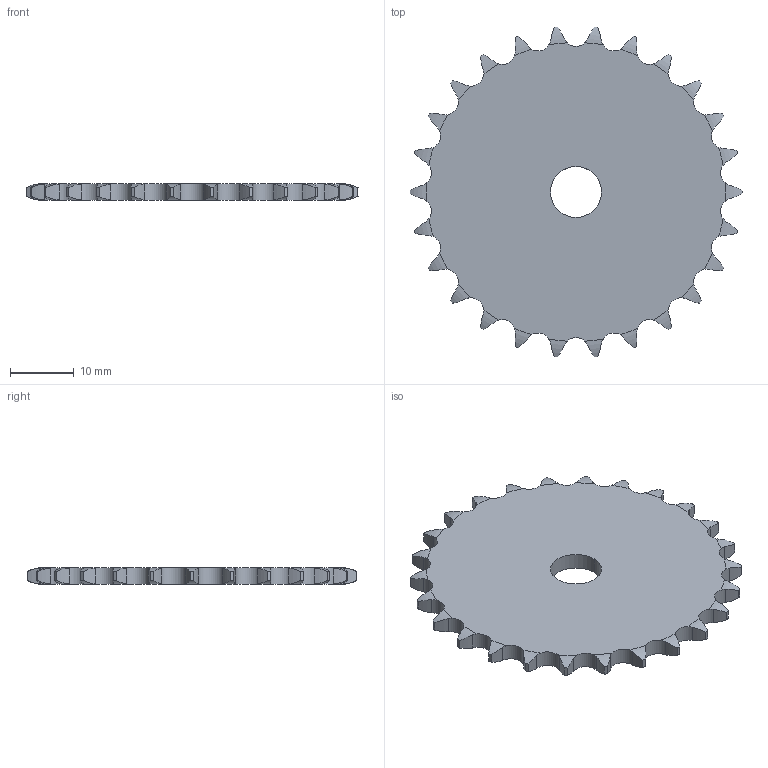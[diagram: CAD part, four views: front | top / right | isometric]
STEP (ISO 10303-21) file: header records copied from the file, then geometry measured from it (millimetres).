
FILE_DESCRIPTION((''),'2;1');
FILE_NAME('500-061-0026_PRT','2021-02-12T',('Brieden'),('Brieden'),'PRO/ENGINEER BY PARAMETRIC TECHNOLOGY CORPORATION, 2010160','PRO/ENGINEER BY PARAMETRIC TECHNOLOGY CORPORATION, 2010160','');
FILE_SCHEMA(('AUTOMOTIVE_DESIGN { 1 0 10303 214 1 1 1 1 }'));
Length unit declared in the file: millimetre
Products named in the file (1): 500-061-0026_PRT
Bounding box: 52.1 x 51.78 x 2.6 mm (x, y, z)
Volume: 4551.6 mm3; surface area: 4154 mm2
Topology: 1 solids, 1 shells, 160 faces, 474 edges, 316 vertices
Faces by surface type: cylinder 106, torus 52, plane 2
Entity records: 7434 total; most frequent: CARTESIAN_POINT 1909, ORIENTED_EDGE 948, DIRECTION 746, PRESENTATION_STYLE_ASSIGNMENT 475, STYLED_ITEM 475, CURVE_STYLE 474, EDGE_CURVE 474, AXIS2_PLACEMENT_3D 320
